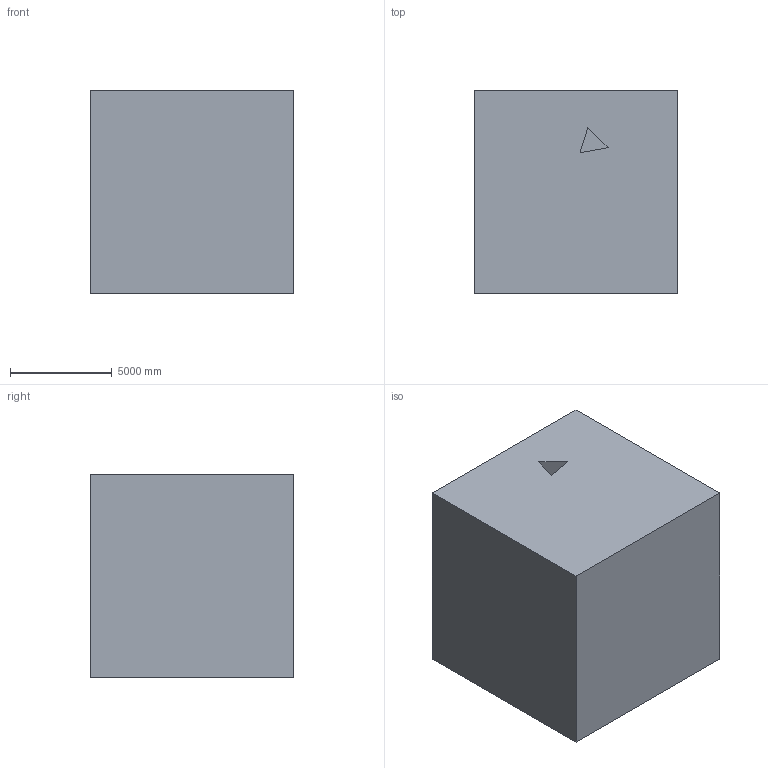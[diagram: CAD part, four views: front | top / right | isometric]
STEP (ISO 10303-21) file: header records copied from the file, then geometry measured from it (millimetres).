
FILE_DESCRIPTION (( 'STEP AP203' ), '1' );
FILE_NAME ('128.STEP', '2022-07-28T13:41:12', ( 'user' ), ( '' ), 'SwSTEP 2.0', 'SolidWorks 2021', '' );
FILE_SCHEMA (( 'CONFIG_CONTROL_DESIGN' ));
Length unit declared in the file: centimetre
Products named in the file (1): 128
Bounding box: 10000 x 10000 x 10000 mm (x, y, z)
Volume: 979411052362.4 mm3; surface area: 630649584.2 mm2
Topology: 1 solids, 1 shells, 14 faces, 33 edges, 22 vertices
Faces by surface type: plane 12, cylinder 2
Entity records: 478 total; most frequent: CARTESIAN_POINT 70, DIRECTION 67, ORIENTED_EDGE 66, EDGE_CURVE 33, VECTOR 29, LINE 29, VERTEX_POINT 22, AXIS2_PLACEMENT_3D 19
